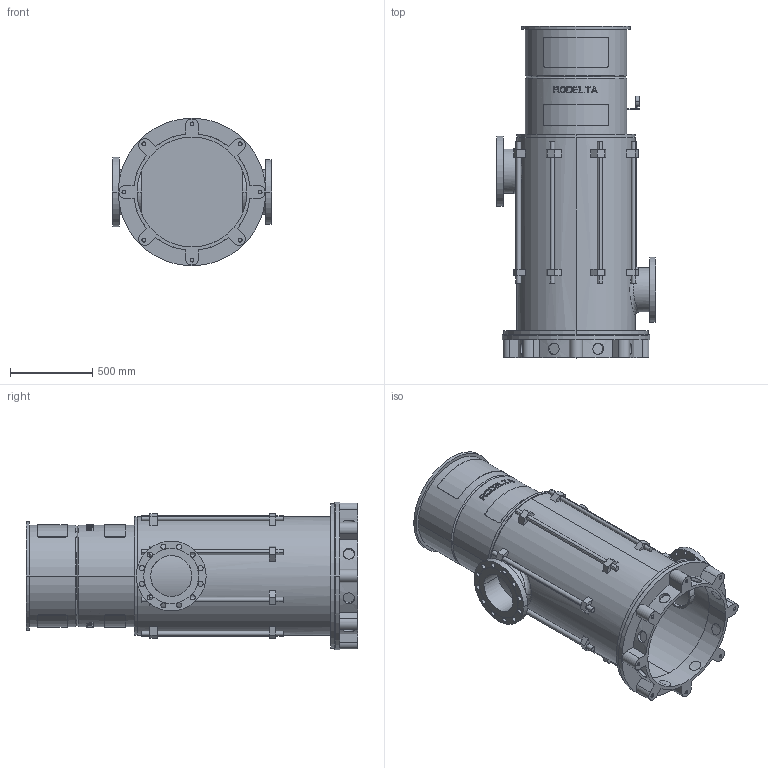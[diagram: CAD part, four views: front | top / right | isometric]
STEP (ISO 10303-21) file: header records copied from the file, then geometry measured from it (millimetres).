
FILE_DESCRIPTION((''),'2;1');
FILE_NAME('LS10_2TR_0GR_P_PN25','2025-10-20T13:26:18',('Lyritlocal'),(''),'CREO PARAMETRIC BY PTC INC, 2022014','CREO PARAMETRIC BY PTC INC, 2022014','');
FILE_SCHEMA(('CONFIG_CONTROL_DESIGN'));
Length unit declared in the file: millimetre
Products named in the file (1): LS10_2TR_0GR_P_PN25
Bounding box: 970 x 2023 x 900 mm (x, y, z)
Volume: 90798714.8 mm3; surface area: 12391792.7 mm2
Topology: 3 solids, 11 shells, 752 faces, 1934 edges, 1288 vertices
Faces by surface type: plane 462, cylinder 274, cone 12, bspline 4
Entity records: 24336 total; most frequent: CARTESIAN_POINT 5990, ORIENTED_EDGE 3836, DIRECTION 3662, EDGE_CURVE 1934, AXIS2_PLACEMENT_3D 1381, VERTEX_POINT 1288, EDGE_LOOP 924, VECTOR 900
